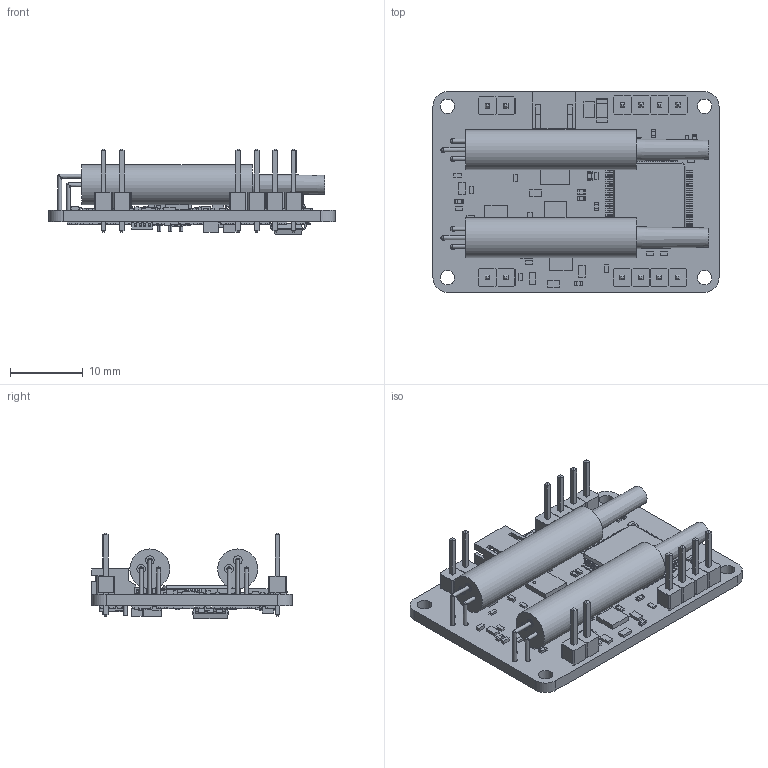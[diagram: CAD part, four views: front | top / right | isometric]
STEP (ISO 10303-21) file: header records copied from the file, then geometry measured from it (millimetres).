
FILE_DESCRIPTION(('Open CASCADE Model'),'2;1');
FILE_NAME('Open CASCADE Shape Model','2020-05-07T14:42:13',('Author'),( 'Open CASCADE'),'Open CASCADE STEP processor 6.8','Open CASCADE 6.8' ,'Unknown');
FILE_SCHEMA(('AUTOMOTIVE_DESIGN { 1 0 10303 214 1 1 1 1 }'));
Length unit declared in the file: millimetre
Products named in the file (229): PCB; Board; U205; 1137001424; Extruded; U204; User_Library-TSOT-23-8; User_Library-TSOT-23-8_Part_TSOT-23-8_____________; User_Library-TSOT-23-8_Assy_FUSS_tsot238_____________; User_Library-TSOT-23-8_Fuss_TSOT-23-8_____________; R516; 1137000200; 1137000064; R515; R307; 1137000472; 1137000336; R223; R222; R221; R220; R219; R218; R217; R216; R215; R214; R213; R212; R211; R210; R209; R208; R207; R206; R205; R204; R203; R202; R201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
Assembly tree (577 placements, depth 5):
  PCB
    Board
    U205
      1137001424
        Extruded
    U204
      User_Library-TSOT-23-8
        User_Library-TSOT-23-8_Part_TSOT-23-8_____________
        User_Library-TSOT-23-8_Assy_FUSS_tsot238_____________  x2
          User_Library-TSOT-23-8_Fuss_TSOT-23-8_____________
    R516
      1137000200
        Extruded
      1137000064  x2
        Extruded
    R515
      1137000200
        Extruded
      1137000064  x2
        Extruded
    R307
      1137000472
        Extruded
      1137000336  x2
        Extruded
    R223
      1137000200
        Extruded
      1137000064  x2
        Extruded
    R222
      1137000472
        Extruded
      1137000336  x2
        Extruded
    R221
      1137000472
        Extruded
      1137000336  x2
        Extruded
    R220
      1137000472
        Extruded
      1137000336  x2
        Extruded
    R219
      1137000200
        Extruded
      1137000064  x2
        Extruded
    R218
      1137000200
        Extruded
      1137000064  x2
        Extruded
    R217
      1137000200
        Extruded
      1137000064  x2
        Extruded
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Bounding box: 39.4 x 27.6 x 11.75 mm (x, y, z)
Volume: 3491.9 mm3; surface area: 5728.8 mm2
Topology: 395 solids, 395 shells, 6196 faces, 13681 edges, 7808 vertices
Faces by surface type: plane 3368, cylinder 1772, bspline 1052, cone 2, sphere 2
Full cylindrical faces by diameter (mm): 0.4 x1, 0.53 x12, 0.6 x7, 0.7 x6, 0.85 x12, 1.2 x4, 2 x4, 5.5 x2
Entity records: 64739 total; most frequent: CARTESIAN_POINT 21266, DIRECTION 7187, LINE 3988, VECTOR 3988, ORIENTED_EDGE 3326, PCURVE 3326, DEFINITIONAL_REPRESENTATION 3326, EDGE_CURVE 1663
